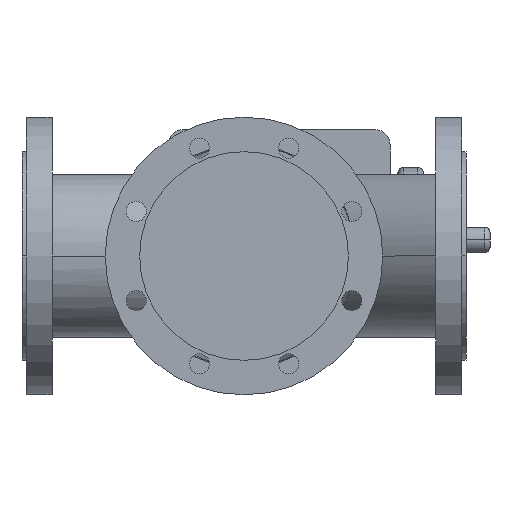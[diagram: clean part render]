
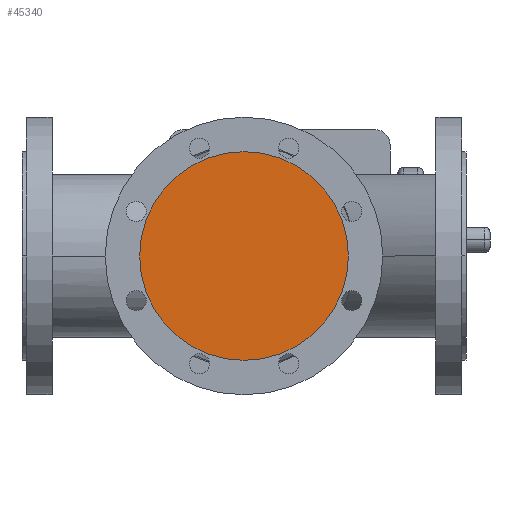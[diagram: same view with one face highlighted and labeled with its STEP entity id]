
A CAD part, front view. The second image highlights one B-rep face of the part: STEP entity #45340.
In plain terms, the highlighted planar face has unit normal (0, -1, 0).
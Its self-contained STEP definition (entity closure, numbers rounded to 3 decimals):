
#7470=CARTESIAN_POINT('',(294.,-200.,0.));
#7480=VERTEX_POINT('',#7470);
#7560=CARTESIAN_POINT('',(106.,-200.,0.));
#7570=VERTEX_POINT('',#7560);
#7600=CARTESIAN_POINT('',(200.,-200.,0.));
#7610=DIRECTION('',(0.,1.,0.));
#7620=DIRECTION('',(1.,0.,0.));
#7630=AXIS2_PLACEMENT_3D('',#7600,#7610,#7620);
#7640=CIRCLE('',#7630,94.);
#7650=EDGE_CURVE('',#7480,#7570,#7640,.T.);
#45240=CARTESIAN_POINT('',(247.,-200.,0.));
#45250=DIRECTION('',(0.,-1.,0.));
#45260=DIRECTION('',(-1.,0.,0.));
#45270=AXIS2_PLACEMENT_3D('',#45240,#45250,#45260);
#45280=PLANE('',#45270);
#45290=EDGE_CURVE('',#7570,#7480,#7640,.T.);
#45300=ORIENTED_EDGE('',*,*,#45290,.F.);
#45310=ORIENTED_EDGE('',*,*,#7650,.F.);
#45320=EDGE_LOOP('',(#45310,#45300));
#45330=FACE_OUTER_BOUND('',#45320,.T.);
#45340=ADVANCED_FACE('',(#45330),#45280,.T.);
